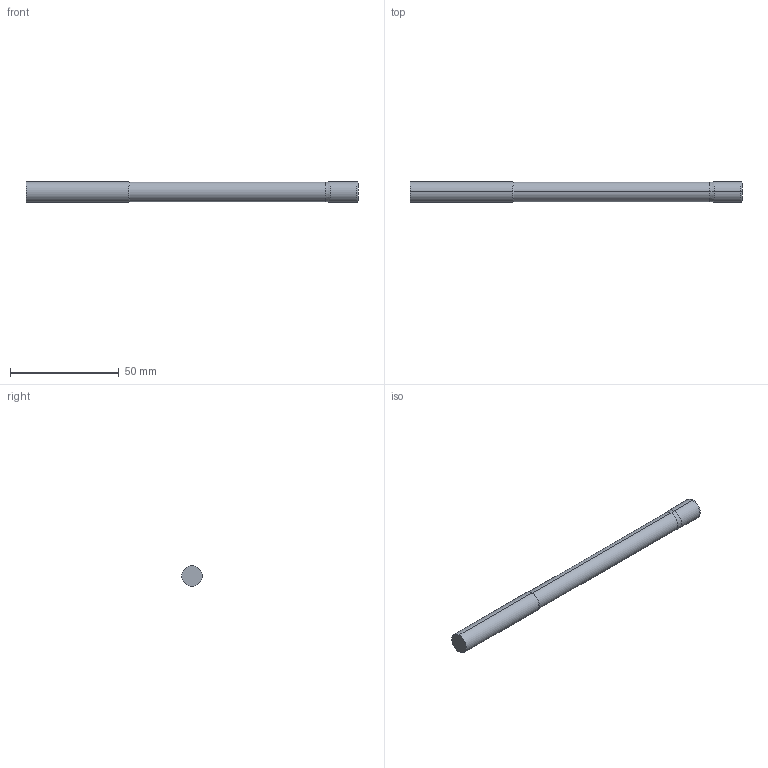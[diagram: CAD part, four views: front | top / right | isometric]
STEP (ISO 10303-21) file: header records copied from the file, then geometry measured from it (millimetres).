
FILE_DESCRIPTION (( 'STEP AP214' ), '1' );
FILE_NAME ('SSIRNX70375-030.STEP', '2025-05-30T15:03:08', ( '' ), ( '' ), 'SwSTEP 2.0', 'SolidWorks 2023', '' );
FILE_SCHEMA (( 'AUTOMOTIVE_DESIGN' ));
Length unit declared in the file: inch
Products named in the file (3): SSI7 Cut Only_SSIRNX70375-030; SSIRNX70375-030; SSI7 Shank Only_SSIRNX70375-030
Assembly tree (2 placements, depth 2):
  SSIRNX70375-030
    SSI7 Cut Only_SSIRNX70375-030
    SSI7 Shank Only_SSIRNX70375-030
Bounding box: 152.4 x 9.53 x 9.53 mm (x, y, z)
Volume: 10180.6 mm3; surface area: 4692.1 mm2
Topology: 2 solids, 2 shells, 16 faces, 28 edges, 16 vertices
Faces by surface type: cylinder 6, plane 4, cone 4, torus 2
Entity records: 484 total; most frequent: DIRECTION 88, CARTESIAN_POINT 65, ORIENTED_EDGE 56, AXIS2_PLACEMENT_3D 39, EDGE_CURVE 28, CIRCLE 18, VERTEX_POINT 16, ADVANCED_FACE 16
